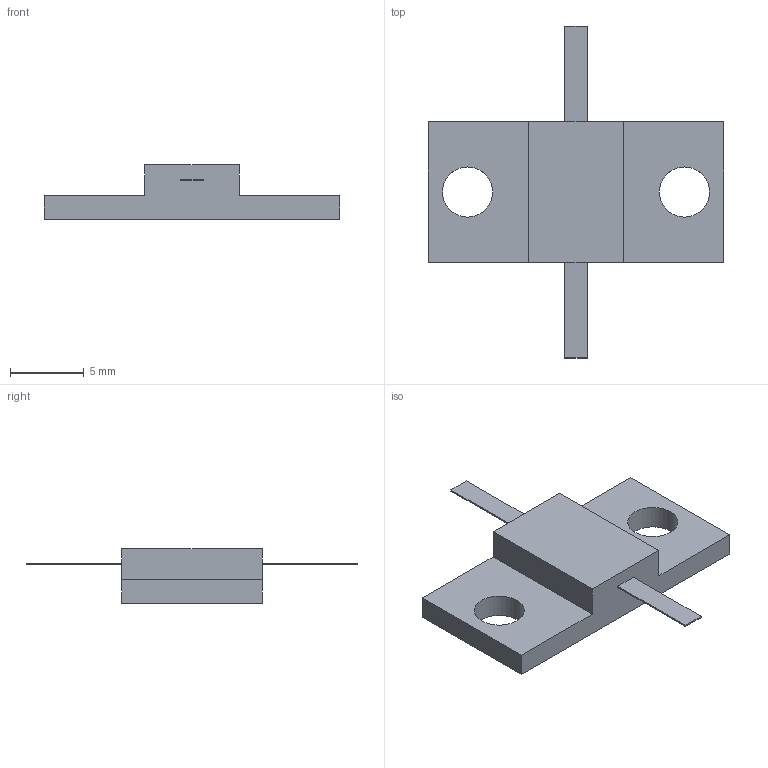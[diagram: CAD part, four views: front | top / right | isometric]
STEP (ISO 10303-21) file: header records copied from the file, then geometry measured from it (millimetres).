
FILE_DESCRIPTION(('STEP AP203'), '1');
FILE_NAME('P1-170-150-33', '', ('UNSPECIFIED'), ('UNSPECIFIED'), 'ASCON STEP Converter 1.6', 'ASCON Math Kernel', '');
FILE_SCHEMA(('CONFIG_CONTROL_DESIGN'));
Length unit declared in the file: millimetre
Bounding box: 20 x 22.5 x 3.7 mm (x, y, z)
Volume: 404.6 mm3; surface area: 580.6 mm2
Topology: 1 solids, 1 shells, 22 faces, 54 edges, 36 vertices
Faces by surface type: plane 20, cylinder 2
Full cylindrical faces by diameter (mm): 3.4 x2
Entity records: 860 total; most frequent: CARTESIAN_POINT 111, ORIENTED_EDGE 104, DIRECTION 102, EDGE_CURVE 52, LINE 48, VECTOR 48, VERTEX_POINT 36, EDGE_LOOP 30
